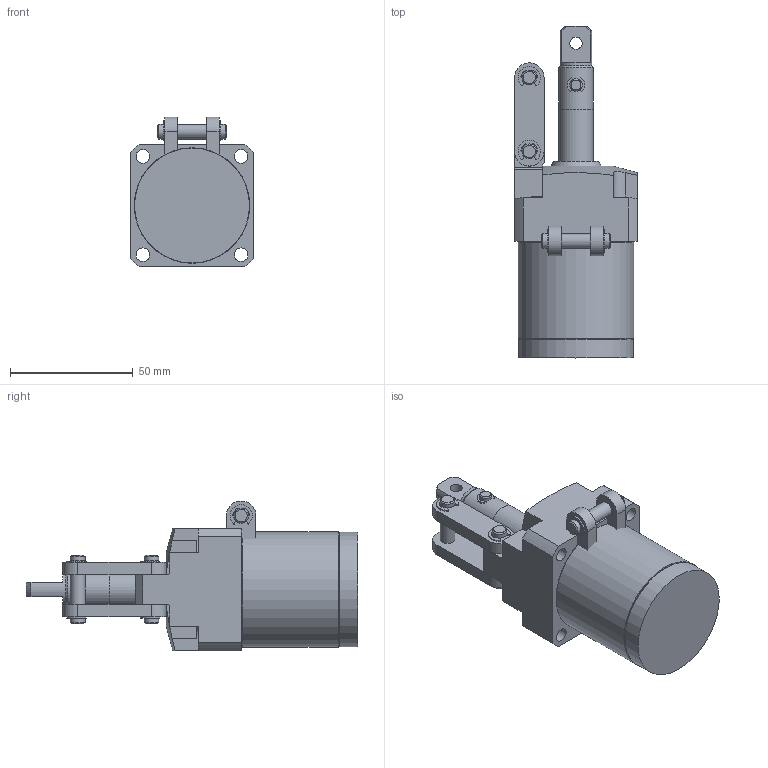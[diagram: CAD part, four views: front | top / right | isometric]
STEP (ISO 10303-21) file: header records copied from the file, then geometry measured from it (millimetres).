
FILE_DESCRIPTION( ( '' ), '1' );
FILE_NAME( 'W:/Catalogue/JL5H/JL5H28-22K/JL5H28-22K.stp', '2008-05-26T01:15:52', ( '機械事業部産業機器グループ' ), ( '豊和工業株式会社' ), 'XStep 1.0', ' ', ' ' );
FILE_SCHEMA( ( 'CONFIG_CONTROL_DESIGN' ) );
Length unit declared in the file: millimetre
Products named in the file (5): Assem1; 1; 2; 3; 4
Bounding box: 50 x 135 x 61 mm (x, y, z)
Volume: 292068.9 mm3; surface area: 71815.6 mm2
Topology: 8 solids, 12 shells, 514 faces, 1348 edges, 886 vertices
Faces by surface type: plane 258, cylinder 214, cone 40, torus 2
Full cylindrical faces by diameter (mm): 2 x2, 3 x4, 3.5 x2, 4 x8, 5 x8, 5.5 x8, 6 x14, 8.3 x4, 13 x2, 14 x4, 16 x2, 20 x2, 24 x4, 28 x4, 46 x4, 46.7 x2, 47 x2
Entity records: 7837 total; most frequent: CARTESIAN_POINT 1383, DIRECTION 1379, ORIENTED_EDGE 1182, EDGE_CURVE 591, AXIS2_PLACEMENT_3D 543, VERTEX_POINT 419, EDGE_LOOP 351, FACE_OUTER_BOUND 296
